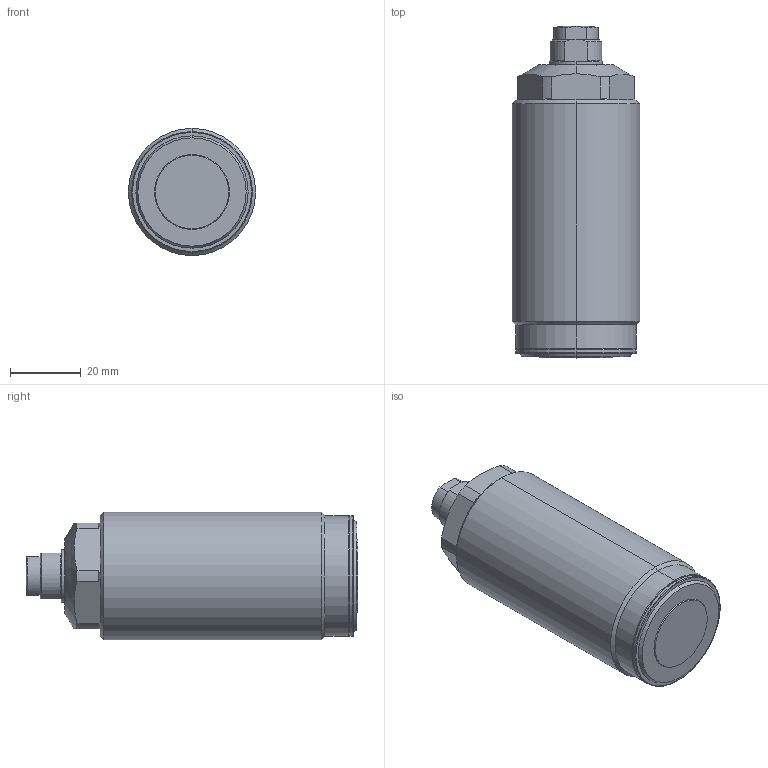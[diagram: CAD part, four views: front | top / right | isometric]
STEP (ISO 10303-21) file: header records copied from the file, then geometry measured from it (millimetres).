
FILE_DESCRIPTION(/* description */ (''),/* implementation_level */ '2;1');
FILE_NAME(/* name */ 'TSC04-PQ.stp',/* time_stamp */ '2024-01-06T14:02:28+08:00',/* author */ (''),/* organization */ (''),/* preprocessor_version */ 'ST-DEVELOPER v16.7',/* originating_system */ 'SIEMENS PLM Software NX 12.0',/* authorisation */ '');
FILE_SCHEMA (('AP203_CONFIGURATION_CONTROLLED_3D_DESIGN_OF_MECHANICAL_PARTS_AND_ASSEMBLIES_MIM_LF { 1 0 10303 403 2 1 2}'));
Length unit declared in the file: millimetre
Products named in the file (4): TSC04-PQ-03; TSC04-PQ-02; TSC04-PQ-01; CSY04-S16_step
Assembly tree (3 placements, depth 2):
  CSY04-S16_step
    TSC04-PQ-01
    TSC04-PQ-02
    TSC04-PQ-03
Bounding box: 36 x 93.96 x 36 mm (x, y, z)
Volume: 81080.4 mm3; surface area: 14093 mm2
Topology: 3 solids, 3 shells, 100 faces, 225 edges, 138 vertices
Faces by surface type: cylinder 32, plane 30, cone 22, torus 14, sphere 2
Entity records: 3283 total; most frequent: CARTESIAN_POINT 559, DIRECTION 528, ORIENTED_EDGE 450, AXIS2_PLACEMENT_3D 227, EDGE_CURVE 225, VERTEX_POINT 138, CIRCLE 123, EDGE_LOOP 107
